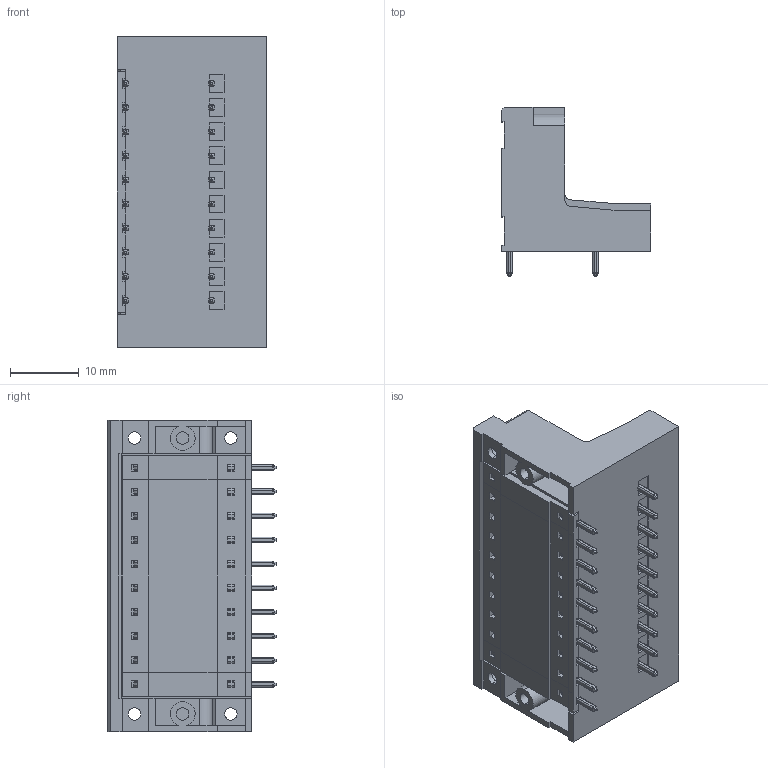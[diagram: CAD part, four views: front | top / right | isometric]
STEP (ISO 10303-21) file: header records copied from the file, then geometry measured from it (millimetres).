
FILE_DESCRIPTION (( 'STEP AP203' ), '1' );
FILE_NAME ('110-S-215-20.STEP', '2017-01-23T05:19:19', ( '' ), ( '' ), 'SwSTEP 2.0', 'SolidWorks 2016', '' );
FILE_SCHEMA (( 'CONFIG_CONTROL_DESIGN' ));
Length unit declared in the file: millimetre
Products named in the file (1): 110-S-215-20
Bounding box: 21.7 x 24.5 x 45.3 mm (x, y, z)
Volume: 8972.7 mm3; surface area: 10137.1 mm2
Topology: 1 solids, 40 shells, 2390 faces, 5998 edges, 3784 vertices
Faces by surface type: plane 1587, cylinder 573, cone 130, sphere 80, torus 20
Entity records: 70323 total; most frequent: CARTESIAN_POINT 14189, ORIENTED_EDGE 11996, DIRECTION 11210, EDGE_CURVE 5998, LINE 4304, VECTOR 4304, VERTEX_POINT 3784, AXIS2_PLACEMENT_3D 3453
